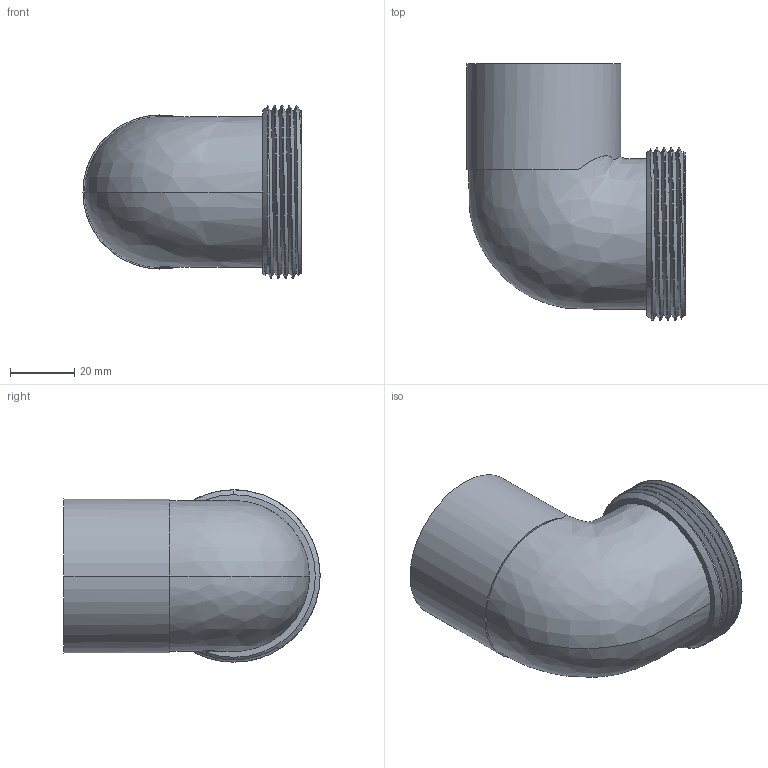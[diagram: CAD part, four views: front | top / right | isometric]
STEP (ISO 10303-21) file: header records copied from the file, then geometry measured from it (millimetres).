
FILE_DESCRIPTION (( 'STEP AP203' ), '1' );
FILE_NAME ('42X134.STEP', '2014-08-26T23:59:12', ( 'Administrators' ), ( 'JUJUMAO' ), 'SwSTEP 2.0', 'SolidWorks 2008', '' );
FILE_SCHEMA (( 'CONFIG_CONTROL_DESIGN' ));
Length unit declared in the file: millimetre
Products named in the file (1): 42X134
Bounding box: 68 x 79.85 x 53.7 mm (x, y, z)
Volume: 44158.1 mm3; surface area: 27884.4 mm2
Topology: 1 solids, 1 shells, 35 faces, 93 edges, 61 vertices
Faces by surface type: cylinder 14, cone 10, bspline 6, plane 5
Entity records: 3379 total; most frequent: CARTESIAN_POINT 2535, ORIENTED_EDGE 186, DIRECTION 128, EDGE_CURVE 93, VERTEX_POINT 61, AXIS2_PLACEMENT_3D 51, EDGE_LOOP 38, FACE_OUTER_BOUND 35
